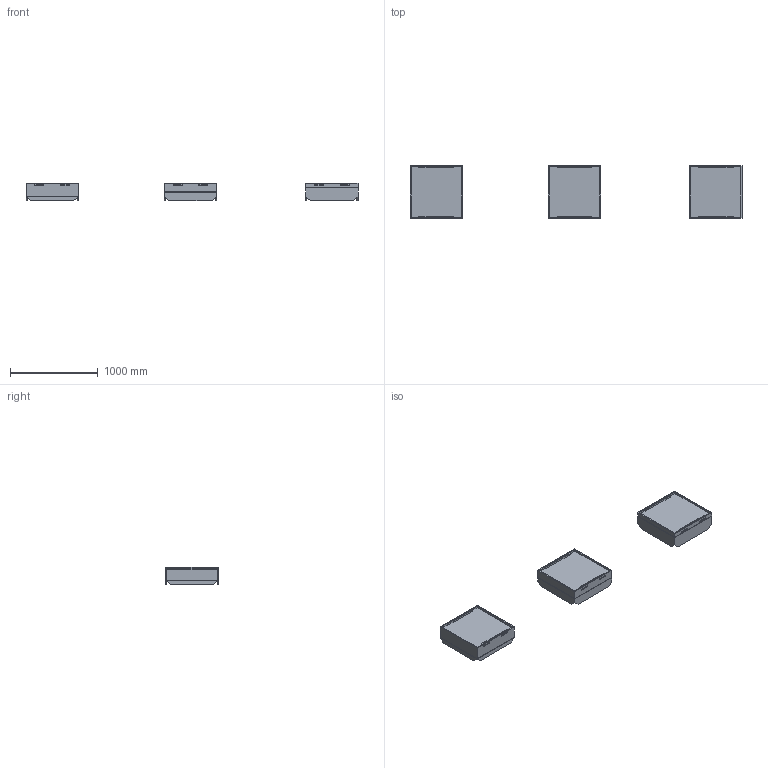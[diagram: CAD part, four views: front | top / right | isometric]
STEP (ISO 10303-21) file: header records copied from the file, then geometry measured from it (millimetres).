
FILE_DESCRIPTION(/* description */ (''),/* implementation_level */ '2;1');
FILE_NAME(/* name */ 'Coffa_Profile_6',/* time_stamp */ '2026-07-17T11:35:06-05:00',/* author */ (''),/* organization */ (''),/* preprocessor_version */ 'ST-DEVELOPER v19.2',/* originating_system */ 'Rhino 8.32',/* authorisation */ '');
FILE_SCHEMA (('CONFIG_CONTROL_DESIGN'));
Length unit declared in the file: inch
Products named in the file (1): Document
Bounding box: 3786.87 x 596.9 x 203.2 mm (x, y, z)
Volume: 29160507.9 mm3; surface area: 5341819.8 mm2
Topology: 21 solids, 21 shells, 306 faces, 811 edges, 540 vertices
Faces by surface type: plane 306
Entity records: 8721 total; most frequent: CARTESIAN_POINT 2968, ORIENTED_EDGE 1584, B_SPLINE_CURVE_WITH_KNOTS 804, EDGE_CURVE 792, VERTEX_POINT 528, EDGE_LOOP 330, DIRECTION 319, AXIS2_PLACEMENT_3D 309
